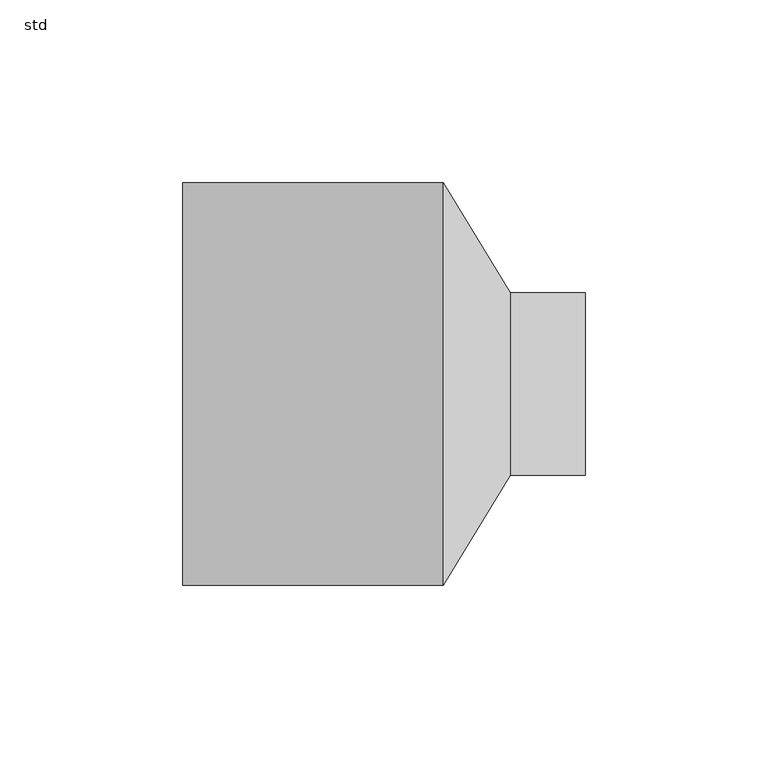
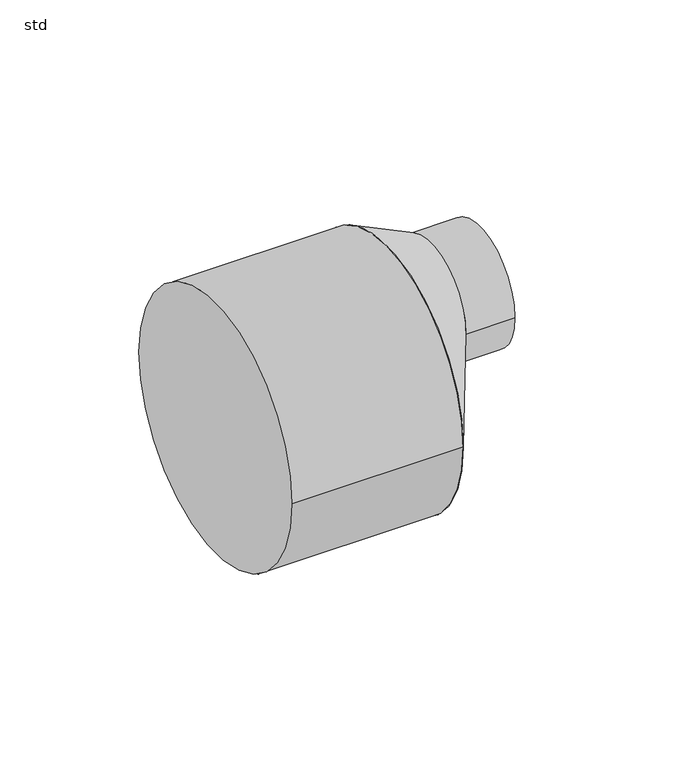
"""IFC4 building model written with IfcOpenShell, lengths in millimetres: pipe fitting geometry, ZZZ_do not use_PIF_ST_UN_ACO pipe increaser coupling_ACO : std."""

from ifc_helpers import new_model, si_unit, point, frame, frame_2d, origin, origin_2d, place, context, project, spatial, circle_curve, trimmed, segment, composite_curve, outline, extrude, source, transform, mapped, element, save
from ifc_brep_helpers import plane_surface, spline_surface, advanced_brep


def std_1d744fe9(model_context):
    return source(origin(), model_context, "Body", "SolidModel", [
        advanced_brep(
        [(34.5833333, -25.0, 25.0), (34.5833333, 25.0, 25.0), (16.25, -55.0, 0.0), (16.25, 55.0, 0.0)],
        [
            (0, 1, circle_curve(frame((34.5833333, 0.0, 25.0), z_axis=(1.0, 0.0, 0.0), x_axis=(0.0, 1.0, 0.0)), 25.0)),
            (1, 0, circle_curve(frame((34.5833333, 0.0, 25.0), z_axis=(1.0, 0.0, 0.0), x_axis=(0.0, 1.0, 0.0)), 25.0)),
            (2, 3, circle_curve(frame((16.25, 0.0, 0.0), z_axis=(-1.0, 0.0, 0.0), x_axis=(0.0, 1.0, 0.0)), 55.0)),
            (3, 2, circle_curve(frame((16.25, 0.0, 0.0), z_axis=(-1.0, 0.0, 0.0), x_axis=(0.0, 1.0, 0.0)), 55.0)),
            (3, 1),
            (0, 2),
        ],
        [
            plane_surface(frame((34.5833333, 0.0, 25.0), z_axis=(1.0, 0.0, 0.0), x_axis=(0.0, 0.0, -1.0))),
            plane_surface(frame((16.25, 0.0, 0.0), z_axis=(-1.0, 0.0, 0.0), x_axis=(0.0, 0.0, -1.0))),
            spline_surface(2, 1, [[(16.25, -55.0, 0.0), (34.5833333, -25.0, 25.0)], [(16.25, -55.0, -55.0), (34.5833333, -25.0, 0.0)], [(16.25, 0.0, -55.0), (34.5833333, 0.0, 0.0)], [(16.25, 55.0, -55.0), (34.5833333, 25.0, 0.0)], [(16.25, 55.0, 0.0), (34.5833333, 25.0, 25.0)]], [3, 2, 3], [2, 2], [0.0, 1.0, 2.0], [0.0, 1.0], weights=[[1.0, 1.0], [0.7071067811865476, 0.7071067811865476], [1.0, 1.0], [0.7071067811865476, 0.7071067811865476], [1.0, 1.0]]),
            spline_surface(2, 1, [[(16.25, 55.0, 0.0), (34.5833333, 25.0, 25.0)], [(16.25, 55.0, 55.0), (34.5833333, 25.0, 50.0)], [(16.25, 0.0, 55.0), (34.5833333, 0.0, 50.0)], [(16.25, -55.0, 55.0), (34.5833333, -25.0, 50.0)], [(16.25, -55.0, 0.0), (34.5833333, -25.0, 25.0)]], [3, 2, 3], [2, 2], [0.0, 1.0, 2.0], [0.0, 1.0], weights=[[1.0, 1.0], [0.7071067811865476, 0.7071067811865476], [1.0, 1.0], [0.7071067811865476, 0.7071067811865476], [1.0, 1.0]]),
        ],
        [
            (0, [[1, 2]]),
            (1, [[3, 4]]),
            (2, [[-4, 5, -1, 6]]),
            (3, [[-3, -6, -2, -5]]),
        ],
    ),
        extrude(outline(composite_curve([segment(trimmed(circle_curve(frame_2d((0.0, 25.0)), 25.0), [point((25.0, 25.0))], [point((-25.0, 25.0))], False, "CARTESIAN"), True, "CONTINUOUS"), segment(trimmed(circle_curve(frame_2d((0.0, 25.0)), 25.0), [point((-25.0, 25.0))], [point((25.0, 25.0))], False, "CARTESIAN"), True, "CONTINUOUS")], self_intersect=False)), frame((34.5833333, 0.0, 0.0), z_axis=(1.0, 0.0, 0.0), x_axis=(0.0, 1.0, 0.0)), (0.0, 0.0, 1.0), 20.4166667),
        extrude(outline(composite_curve([segment(trimmed(circle_curve(origin_2d(), 55.0), [point((-55.0, 0.0))], [point((55.0, 0.0))], False, "CARTESIAN"), True, "CONTINUOUS"), segment(trimmed(circle_curve(origin_2d(), 55.0), [point((55.0, 0.0))], [point((-55.0, 0.0))], False, "CARTESIAN"), True, "CONTINUOUS")], self_intersect=False)), frame((-55.0, 0.0, 0.0), z_axis=(1.0, 0.0, 0.0), x_axis=(0.0, 1.0, 0.0)), (0.0, 0.0, 1.0), 71.25),
    ])


if __name__ == "__main__":
    model = new_model("IFC4")
    model_context = context("Model", 3, world=origin())
    ifc_project = project(units=[si_unit("LENGTHUNIT", "METRE", prefix="MILLI")], contexts=[model_context])
    site = spatial("IfcSite", under=ifc_project)
    building = spatial("IfcBuilding", under=site)
    placement = place(None, origin())
    std_shape = std_1d744fe9(model_context)
    element("IfcPipeFitting", 1, ObjectType="ZZZ_do not use_PIF_ST_UN_ACO pipe increaser coupling_ACO : std", at=placement, inside=building, context=model_context, shape_type="MappedRepresentation", body=[
        mapped(std_shape, transform((0.0, 0.0, 0.0), x_axis=(1.0, 0.0, 0.0), y_axis=(0.0, 1.0, 0.0), z_axis=(0.0, 0.0, 1.0))),
    ])
    save(model, "model.ifc")
